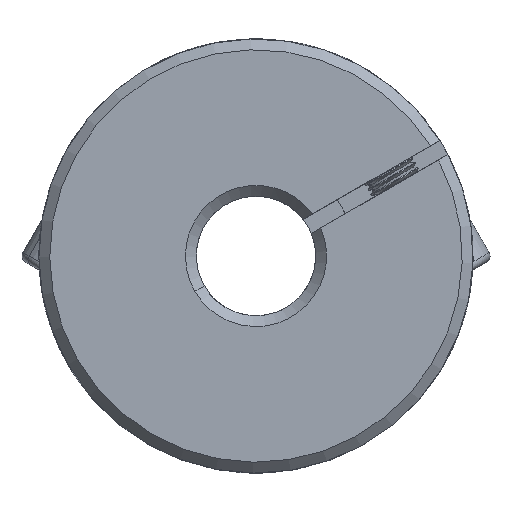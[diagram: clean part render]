
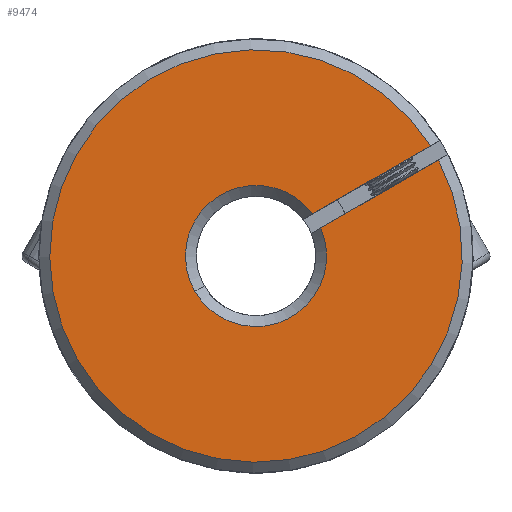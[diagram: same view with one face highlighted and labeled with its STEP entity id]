
A CAD part, front view. The second image highlights one B-rep face of the part: STEP entity #9474.
In plain terms, the highlighted planar face has unit normal (0, -1, 0).
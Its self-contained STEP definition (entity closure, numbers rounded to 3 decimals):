
#280 = CIRCLE ( 'NONE', #5857, 6.5 ) ;
#449 = EDGE_CURVE ( 'NONE', #12010, #10026, #10090, .T. ) ;
#550 = CARTESIAN_POINT ( 'NONE',  ( 14.616, -31.239, 50.147 ) ) ;
#553 = LINE ( 'NONE', #1560, #11672 ) ;
#703 = VECTOR ( 'NONE', #8989, 1000. ) ;
#1330 = DIRECTION ( 'NONE',  ( 0., -1., 0. ) ) ;
#1475 = EDGE_LOOP ( 'NONE', ( #2954, #8002, #13164, #6885, #3429 ) ) ;
#1560 = CARTESIAN_POINT ( 'NONE',  ( 2.896, -31.239, 43.375 ) ) ;
#1628 = AXIS2_PLACEMENT_3D ( 'NONE', #4308, #3146, #5378 ) ;
#2506 = VERTEX_POINT ( 'NONE', #5467 ) ;
#2585 = DIRECTION ( 'NONE',  ( 0.5, 0., -0.866 ) ) ;
#2936 = DIRECTION ( 'NONE',  ( 0., 1., 0. ) ) ;
#2954 = ORIENTED_EDGE ( 'NONE', *, *, #7779, .F. ) ;
#3146 = DIRECTION ( 'NONE',  ( 0., 1., 0. ) ) ;
#3429 = ORIENTED_EDGE ( 'NONE', *, *, #449, .T. ) ;
#3628 = CARTESIAN_POINT ( 'NONE',  ( 3.646, -31.239, 42.076 ) ) ;
#3666 = VERTEX_POINT ( 'NONE', #12663 ) ;
#3689 = DIRECTION ( 'NONE',  ( 0., 1., 0. ) ) ;
#4039 = CIRCLE ( 'NONE', #1628, 6.5 ) ;
#4091 = CARTESIAN_POINT ( 'NONE',  ( 15.367, -31.239, 48.848 ) ) ;
#4308 = CARTESIAN_POINT ( 'NONE',  ( -1.447, -31.239, 40. ) ) ;
#4869 = FACE_OUTER_BOUND ( 'NONE', #1475, .T. ) ;
#5079 = PLANE ( 'NONE',  #10927 ) ;
#5378 = DIRECTION ( 'NONE',  ( 0.5, 0., -0.866 ) ) ;
#5467 = CARTESIAN_POINT ( 'NONE',  ( 3.768, -31.239, 43.879 ) ) ;
#5857 = AXIS2_PLACEMENT_3D ( 'NONE', #12204, #3689, #11086 ) ;
#6782 = CARTESIAN_POINT ( 'NONE',  ( -1.447, -31.239, 40. ) ) ;
#6885 = ORIENTED_EDGE ( 'NONE', *, *, #13522, .F. ) ;
#7299 = CARTESIAN_POINT ( 'NONE',  ( 52.98, -31.239, 45.743 ) ) ;
#7779 = EDGE_CURVE ( 'NONE', #3666, #10026, #9449, .T. ) ;
#7801 = AXIS2_PLACEMENT_3D ( 'NONE', #6782, #1330, #2585 ) ;
#8002 = ORIENTED_EDGE ( 'NONE', *, *, #11262, .T. ) ;
#8982 = EDGE_CURVE ( 'NONE', #10159, #2506, #4039, .T. ) ;
#8989 = DIRECTION ( 'NONE',  ( 0.866, 0., 0.5 ) ) ;
#9449 = LINE ( 'NONE', #3628, #703 ) ;
#9474 = ADVANCED_FACE ( 'NONE', ( #4869 ), #5079, .F. ) ;
#10026 = VERTEX_POINT ( 'NONE', #4091 ) ;
#10090 = CIRCLE ( 'NONE', #7801, 19. ) ;
#10159 = VERTEX_POINT ( 'NONE', #13988 ) ;
#10927 = AXIS2_PLACEMENT_3D ( 'NONE', #7299, #2936, #12681 ) ;
#11086 = DIRECTION ( 'NONE',  ( 0.5, 0., -0.866 ) ) ;
#11253 = DIRECTION ( 'NONE',  ( -0.866, 0., -0.5 ) ) ;
#11262 = EDGE_CURVE ( 'NONE', #3666, #10159, #280, .T. ) ;
#11672 = VECTOR ( 'NONE', #11253, 1000. ) ;
#12010 = VERTEX_POINT ( 'NONE', #550 ) ;
#12204 = CARTESIAN_POINT ( 'NONE',  ( -1.447, -31.239, 40. ) ) ;
#12663 = CARTESIAN_POINT ( 'NONE',  ( 4.519, -31.239, 42.581 ) ) ;
#12681 = DIRECTION ( 'NONE',  ( 0.5, 0., -0.866 ) ) ;
#13164 = ORIENTED_EDGE ( 'NONE', *, *, #8982, .T. ) ;
#13522 = EDGE_CURVE ( 'NONE', #12010, #2506, #553, .T. ) ;
#13988 = CARTESIAN_POINT ( 'NONE',  ( -7.075, -31.239, 36.748 ) ) ;
